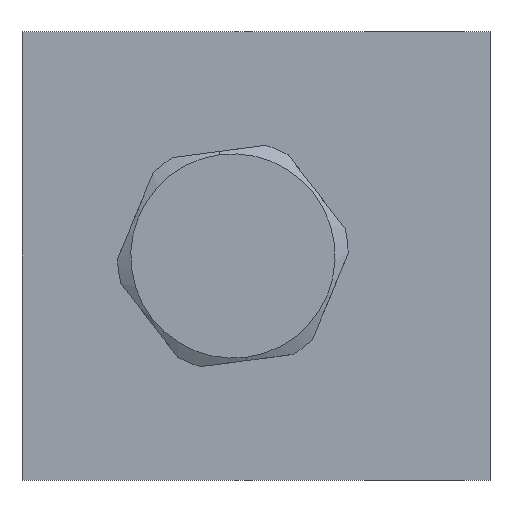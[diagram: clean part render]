
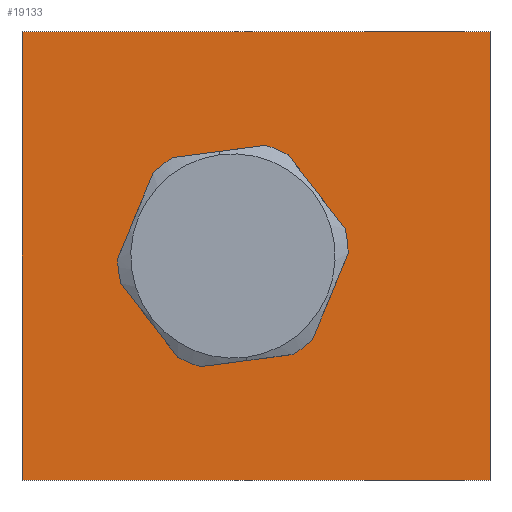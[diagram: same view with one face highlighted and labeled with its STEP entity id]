
A CAD part, left-side view. The second image highlights one B-rep face of the part: STEP entity #19133.
In plain terms, the highlighted planar face has unit normal (-1, 0, 0).
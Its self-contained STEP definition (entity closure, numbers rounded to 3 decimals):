
#468 = ORIENTED_EDGE ( 'NONE', *, *, #2265, .F. ) ;
#871 = DIRECTION ( 'NONE',  ( 0., -1., 0. ) ) ;
#916 = DIRECTION ( 'NONE',  ( -1., 0., 0. ) ) ;
#934 = CARTESIAN_POINT ( 'NONE',  ( 0., 3.5, 0. ) ) ;
#935 = VERTEX_POINT ( 'NONE', #1589 ) ;
#1391 = CARTESIAN_POINT ( 'NONE',  ( 0., 0., 0. ) ) ;
#1589 = CARTESIAN_POINT ( 'NONE',  ( 0., -35.5, -34. ) ) ;
#1862 = DIRECTION ( 'NONE',  ( 0., 0., 1. ) ) ;
#1885 = CARTESIAN_POINT ( 'NONE',  ( 0., 35.5, 34. ) ) ;
#2087 = ORIENTED_EDGE ( 'NONE', *, *, #2256, .F. ) ;
#2154 = EDGE_CURVE ( 'NONE', #935, #19522, #7384, .T. ) ;
#2256 = EDGE_CURVE ( 'NONE', #16468, #935, #15838, .T. ) ;
#2265 = EDGE_CURVE ( 'NONE', #10357, #16468, #6070, .T. ) ;
#2339 = EDGE_CURVE ( 'NONE', #19522, #10357, #15806, .T. ) ;
#2399 = EDGE_LOOP ( 'NONE', ( #5179, #6706 ) ) ;
#2406 = EDGE_CURVE ( 'NONE', #17501, #5596, #18438, .T. ) ;
#2848 = CIRCLE ( 'NONE', #8459, 16. ) ;
#2952 = DIRECTION ( 'NONE',  ( 0., -1., 0. ) ) ;
#2976 = DIRECTION ( 'NONE',  ( 0., 0., 1. ) ) ;
#3092 = CARTESIAN_POINT ( 'NONE',  ( 0., -35.5, 34. ) ) ;
#3321 = CARTESIAN_POINT ( 'NONE',  ( 0., -35.5, 34. ) ) ;
#3362 = DIRECTION ( 'NONE',  ( 0., 0., -1. ) ) ;
#3684 = CARTESIAN_POINT ( 'NONE',  ( 0., 3.5, 0. ) ) ;
#4161 = CARTESIAN_POINT ( 'NONE',  ( 0., -12.5, 0. ) ) ;
#4310 = CARTESIAN_POINT ( 'NONE',  ( 0., 35.5, -34. ) ) ;
#4656 = ORIENTED_EDGE ( 'NONE', *, *, #2154, .F. ) ;
#5035 = VECTOR ( 'NONE', #1862, 1000. ) ;
#5155 = CARTESIAN_POINT ( 'NONE',  ( 0., -35.5, -34. ) ) ;
#5179 = ORIENTED_EDGE ( 'NONE', *, *, #2406, .F. ) ;
#5203 = DIRECTION ( 'NONE',  ( 0., 1., 0. ) ) ;
#5268 = EDGE_LOOP ( 'NONE', ( #4656, #2087, #468, #6481 ) ) ;
#5350 = DIRECTION ( 'NONE',  ( 0., -1., 0. ) ) ;
#5596 = VERTEX_POINT ( 'NONE', #18573 ) ;
#6070 = LINE ( 'NONE', #3092, #6109 ) ;
#6091 = VECTOR ( 'NONE', #3362, 1000. ) ;
#6109 = VECTOR ( 'NONE', #2952, 1000. ) ;
#6413 = AXIS2_PLACEMENT_3D ( 'NONE', #934, #916, #871 ) ;
#6481 = ORIENTED_EDGE ( 'NONE', *, *, #2339, .F. ) ;
#6706 = ORIENTED_EDGE ( 'NONE', *, *, #12602, .F. ) ;
#7027 = FACE_BOUND ( 'NONE', #2399, .T. ) ;
#7368 = VECTOR ( 'NONE', #5203, 1000. ) ;
#7384 = LINE ( 'NONE', #5155, #7368 ) ;
#7964 = AXIS2_PLACEMENT_3D ( 'NONE', #1391, #12819, #2976 ) ;
#8459 = AXIS2_PLACEMENT_3D ( 'NONE', #3684, #15045, #5350 ) ;
#10357 = VERTEX_POINT ( 'NONE', #15118 ) ;
#12602 = EDGE_CURVE ( 'NONE', #5596, #17501, #2848, .T. ) ;
#12819 = DIRECTION ( 'NONE',  ( -1., 0., 0. ) ) ;
#15045 = DIRECTION ( 'NONE',  ( -1., 0., 0. ) ) ;
#15118 = CARTESIAN_POINT ( 'NONE',  ( 0., 35.5, 34. ) ) ;
#15202 = FACE_OUTER_BOUND ( 'NONE', #5268, .T. ) ;
#15806 = LINE ( 'NONE', #1885, #5035 ) ;
#15830 = PLANE ( 'NONE',  #7964 ) ;
#15838 = LINE ( 'NONE', #3321, #6091 ) ;
#16468 = VERTEX_POINT ( 'NONE', #17649 ) ;
#17501 = VERTEX_POINT ( 'NONE', #4161 ) ;
#17649 = CARTESIAN_POINT ( 'NONE',  ( 0., -35.5, 34. ) ) ;
#18438 = CIRCLE ( 'NONE', #6413, 16. ) ;
#18573 = CARTESIAN_POINT ( 'NONE',  ( 0., 19.5, 0. ) ) ;
#19133 = ADVANCED_FACE ( 'NONE', ( #15202, #7027 ), #15830, .T. ) ;
#19522 = VERTEX_POINT ( 'NONE', #4310 ) ;
